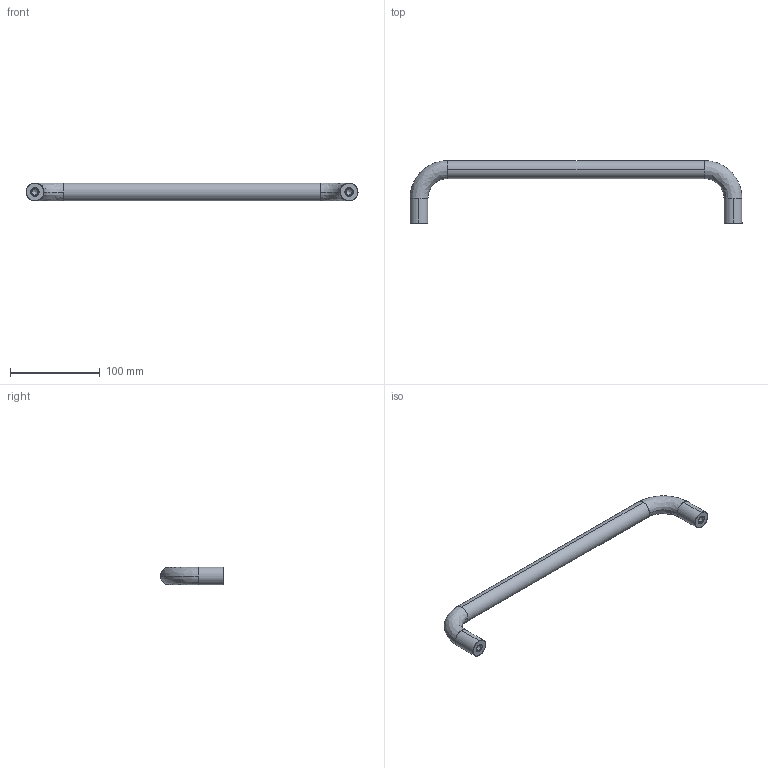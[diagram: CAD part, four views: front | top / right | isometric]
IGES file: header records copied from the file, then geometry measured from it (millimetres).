
Start section: SolidWorks IGES FILE using analytic representation for surfaces
Global section: file name: C:\WIX2\Knobs\7872\7872.W350-1.igs; native system: SolidWorks 2003 by SolidWorks Corporation; preprocessor: Version 5.3; author: Joan; date: 030722.094302; units: millimetre
Bounding box: 370 x 70 x 20 mm (x, y, z)
Surface area: 29354.7 mm2 (no closed solid volume)
Topology: 0 solids, 0 shells, 32 faces, 252 edges, 248 vertices
Faces by surface type: revolution 18, bspline 14
